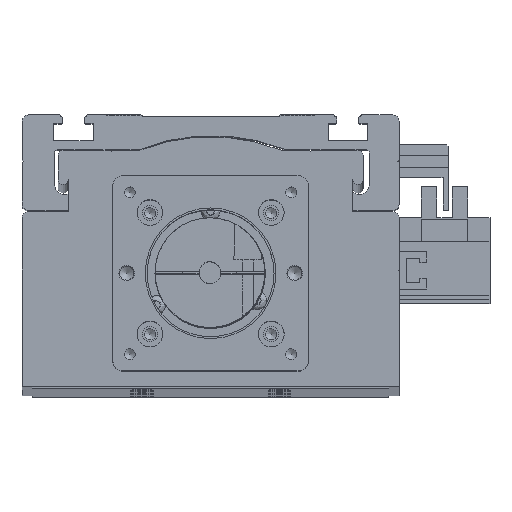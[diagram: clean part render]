
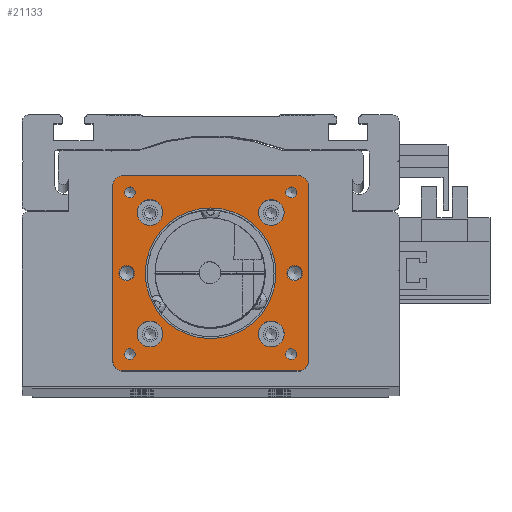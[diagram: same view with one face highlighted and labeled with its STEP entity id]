
A CAD part, top view. The second image highlights one B-rep face of the part: STEP entity #21133.
In plain terms, the highlighted planar face has unit normal (0, 0, 1).
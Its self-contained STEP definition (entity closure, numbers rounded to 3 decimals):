
#20897=CARTESIAN_POINT('',(54.0,57.0,0.0));
#20898=VERTEX_POINT('',#20897);
#20905=CARTESIAN_POINT('',(57.0,54.0,0.0));
#20906=VERTEX_POINT('',#20905);
#20907=CARTESIAN_POINT('',(54.0,54.0,0.0));
#20908=DIRECTION('',(0.0,0.0,-1.));
#20909=DIRECTION('',(0.707,0.707,0.0));
#20910=AXIS2_PLACEMENT_3D('',#20907,#20908,#20909);
#20911=CIRCLE('',#20910,3.);
#20912=EDGE_CURVE('',#20898,#20906,#20911,.T.);
#20929=CARTESIAN_POINT('',(57.0,3.,0.0));
#20930=VERTEX_POINT('',#20929);
#20931=CARTESIAN_POINT('',(57.0,3.,0.0));
#20932=DIRECTION('',(0.0,1.0,0.0));
#20933=VECTOR('',#20932,51.0);
#20934=LINE('',#20931,#20933);
#20935=EDGE_CURVE('',#20930,#20906,#20934,.T.);
#20954=CARTESIAN_POINT('',(28.5,28.5,0.0));
#20955=DIRECTION('',(0.0,0.0,1.0));
#20956=DIRECTION('',(1.0,0.0,0.0));
#20957=AXIS2_PLACEMENT_3D('',#20954,#20955,#20956);
#20958=PLANE('',#20957);
#20959=ORIENTED_EDGE('',*,*,#20912,.F.);
#20960=CARTESIAN_POINT('',(3.,57.0,0.0));
#20961=VERTEX_POINT('',#20960);
#20962=CARTESIAN_POINT('',(54.0,57.0,0.0));
#20963=DIRECTION('',(-1.0,0.0,0.0));
#20964=VECTOR('',#20963,51.0);
#20965=LINE('',#20962,#20964);
#20966=EDGE_CURVE('',#20898,#20961,#20965,.T.);
#20967=ORIENTED_EDGE('',*,*,#20966,.T.);
#20968=CARTESIAN_POINT('',(0.0,54.0,0.0));
#20969=VERTEX_POINT('',#20968);
#20970=CARTESIAN_POINT('',(3.,54.0,0.0));
#20971=DIRECTION('',(0.0,0.0,-1.0));
#20972=DIRECTION('',(-0.707,0.707,0.0));
#20973=AXIS2_PLACEMENT_3D('',#20970,#20971,#20972);
#20974=CIRCLE('',#20973,3.0);
#20975=EDGE_CURVE('',#20969,#20961,#20974,.T.);
#20976=ORIENTED_EDGE('',*,*,#20975,.F.);
#20977=CARTESIAN_POINT('',(0.0,3.,0.0));
#20978=VERTEX_POINT('',#20977);
#20979=CARTESIAN_POINT('',(0.0,54.0,0.0));
#20980=DIRECTION('',(0.0,-1.0,0.0));
#20981=VECTOR('',#20980,51.0);
#20982=LINE('',#20979,#20981);
#20983=EDGE_CURVE('',#20969,#20978,#20982,.T.);
#20984=ORIENTED_EDGE('',*,*,#20983,.T.);
#20985=CARTESIAN_POINT('',(3.,0.0,0.0));
#20986=VERTEX_POINT('',#20985);
#20987=CARTESIAN_POINT('',(3.,3.,0.0));
#20988=DIRECTION('',(0.0,0.0,-1.));
#20989=DIRECTION('',(-0.707,-0.707,0.0));
#20990=AXIS2_PLACEMENT_3D('',#20987,#20988,#20989);
#20991=CIRCLE('',#20990,3.);
#20992=EDGE_CURVE('',#20986,#20978,#20991,.T.);
#20993=ORIENTED_EDGE('',*,*,#20992,.F.);
#20994=CARTESIAN_POINT('',(54.0,0.0,0.0));
#20995=VERTEX_POINT('',#20994);
#20996=CARTESIAN_POINT('',(3.,0.0,0.0));
#20997=DIRECTION('',(1.0,0.0,0.0));
#20998=VECTOR('',#20997,51.0);
#20999=LINE('',#20996,#20998);
#21000=EDGE_CURVE('',#20986,#20995,#20999,.T.);
#21001=ORIENTED_EDGE('',*,*,#21000,.T.);
#21002=CARTESIAN_POINT('',(54.0,3.,0.0));
#21003=DIRECTION('',(0.0,0.0,-1.));
#21004=DIRECTION('',(0.707,-0.707,0.0));
#21005=AXIS2_PLACEMENT_3D('',#21002,#21003,#21004);
#21006=CIRCLE('',#21005,3.);
#21007=EDGE_CURVE('',#20930,#20995,#21006,.T.);
#21008=ORIENTED_EDGE('',*,*,#21007,.F.);
#21009=ORIENTED_EDGE('',*,*,#20935,.T.);
#21010=EDGE_LOOP('',(#20959,#20967,#20976,#20984,#20993,#21001,#21008,#21009));
#21011=FACE_OUTER_BOUND('',#21010,.T.);
#21012=CARTESIAN_POINT('',(6.25,28.5,0.0));
#21013=VERTEX_POINT('',#21012);
#21014=CARTESIAN_POINT('',(4.,28.5,0.0));
#21015=DIRECTION('',(0.0,0.0,-1.0));
#21016=DIRECTION('',(1.0,0.0,0.0));
#21017=AXIS2_PLACEMENT_3D('',#21014,#21015,#21016);
#21018=CIRCLE('',#21017,2.25);
#21019=EDGE_CURVE('',#21013,#21013,#21018,.T.);
#21020=ORIENTED_EDGE('',*,*,#21019,.T.);
#21021=EDGE_LOOP('',(#21020));
#21022=FACE_BOUND('',#21021,.T.);
#21023=CARTESIAN_POINT('',(55.25,28.5,0.0));
#21024=VERTEX_POINT('',#21023);
#21025=CARTESIAN_POINT('',(53.,28.5,0.0));
#21026=DIRECTION('',(0.0,0.0,-1.0));
#21027=DIRECTION('',(1.0,0.0,0.0));
#21028=AXIS2_PLACEMENT_3D('',#21025,#21026,#21027);
#21029=CIRCLE('',#21028,2.25);
#21030=EDGE_CURVE('',#21024,#21024,#21029,.T.);
#21031=ORIENTED_EDGE('',*,*,#21030,.T.);
#21032=EDGE_LOOP('',(#21031));
#21033=FACE_BOUND('',#21032,.T.);
#21034=CARTESIAN_POINT('',(6.546,4.925,0.0));
#21035=VERTEX_POINT('',#21034);
#21036=CARTESIAN_POINT('',(4.925,4.925,0.0));
#21037=DIRECTION('',(0.0,0.0,-1.0));
#21038=DIRECTION('',(1.0,0.0,0.0));
#21039=AXIS2_PLACEMENT_3D('',#21036,#21037,#21038);
#21040=CIRCLE('',#21039,1.621);
#21041=EDGE_CURVE('',#21035,#21035,#21040,.T.);
#21042=ORIENTED_EDGE('',*,*,#21041,.T.);
#21043=EDGE_LOOP('',(#21042));
#21044=FACE_BOUND('',#21043,.T.);
#21045=CARTESIAN_POINT('',(53.696,52.075,0.0));
#21046=VERTEX_POINT('',#21045);
#21047=CARTESIAN_POINT('',(52.075,52.075,0.0));
#21048=DIRECTION('',(0.0,0.0,-1.0));
#21049=DIRECTION('',(1.0,0.0,0.0));
#21050=AXIS2_PLACEMENT_3D('',#21047,#21048,#21049);
#21051=CIRCLE('',#21050,1.621);
#21052=EDGE_CURVE('',#21046,#21046,#21051,.T.);
#21053=ORIENTED_EDGE('',*,*,#21052,.T.);
#21054=EDGE_LOOP('',(#21053));
#21055=FACE_BOUND('',#21054,.T.);
#21056=CARTESIAN_POINT('',(6.546,52.075,0.0));
#21057=VERTEX_POINT('',#21056);
#21058=CARTESIAN_POINT('',(4.925,52.075,0.0));
#21059=DIRECTION('',(0.0,0.0,-1.0));
#21060=DIRECTION('',(1.0,0.0,0.0));
#21061=AXIS2_PLACEMENT_3D('',#21058,#21059,#21060);
#21062=CIRCLE('',#21061,1.621);
#21063=EDGE_CURVE('',#21057,#21057,#21062,.T.);
#21064=ORIENTED_EDGE('',*,*,#21063,.T.);
#21065=EDGE_LOOP('',(#21064));
#21066=FACE_BOUND('',#21065,.T.);
#21067=CARTESIAN_POINT('',(53.696,4.925,0.0));
#21068=VERTEX_POINT('',#21067);
#21069=CARTESIAN_POINT('',(52.075,4.925,0.0));
#21070=DIRECTION('',(0.0,0.0,-1.0));
#21071=DIRECTION('',(1.0,0.0,0.0));
#21072=AXIS2_PLACEMENT_3D('',#21069,#21070,#21071);
#21073=CIRCLE('',#21072,1.621);
#21074=EDGE_CURVE('',#21068,#21068,#21073,.T.);
#21075=ORIENTED_EDGE('',*,*,#21074,.T.);
#21076=EDGE_LOOP('',(#21075));
#21077=FACE_BOUND('',#21076,.T.);
#21078=CARTESIAN_POINT('',(49.95,10.8,0.0));
#21079=VERTEX_POINT('',#21078);
#21080=CARTESIAN_POINT('',(46.2,10.8,0.0));
#21081=DIRECTION('',(0.0,0.0,-1.0));
#21082=DIRECTION('',(1.0,0.0,0.0));
#21083=AXIS2_PLACEMENT_3D('',#21080,#21081,#21082);
#21084=CIRCLE('',#21083,3.75);
#21085=EDGE_CURVE('',#21079,#21079,#21084,.T.);
#21086=ORIENTED_EDGE('',*,*,#21085,.T.);
#21087=EDGE_LOOP('',(#21086));
#21088=FACE_BOUND('',#21087,.T.);
#21089=CARTESIAN_POINT('',(14.55,46.2,0.0));
#21090=VERTEX_POINT('',#21089);
#21091=CARTESIAN_POINT('',(10.8,46.2,0.0));
#21092=DIRECTION('',(0.0,0.0,-1.0));
#21093=DIRECTION('',(1.0,0.0,0.0));
#21094=AXIS2_PLACEMENT_3D('',#21091,#21092,#21093);
#21095=CIRCLE('',#21094,3.75);
#21096=EDGE_CURVE('',#21090,#21090,#21095,.T.);
#21097=ORIENTED_EDGE('',*,*,#21096,.T.);
#21098=EDGE_LOOP('',(#21097));
#21099=FACE_BOUND('',#21098,.T.);
#21100=CARTESIAN_POINT('',(49.95,46.2,0.0));
#21101=VERTEX_POINT('',#21100);
#21102=CARTESIAN_POINT('',(46.2,46.2,0.0));
#21103=DIRECTION('',(0.0,0.0,-1.0));
#21104=DIRECTION('',(1.0,0.0,0.0));
#21105=AXIS2_PLACEMENT_3D('',#21102,#21103,#21104);
#21106=CIRCLE('',#21105,3.75);
#21107=EDGE_CURVE('',#21101,#21101,#21106,.T.);
#21108=ORIENTED_EDGE('',*,*,#21107,.T.);
#21109=EDGE_LOOP('',(#21108));
#21110=FACE_BOUND('',#21109,.T.);
#21111=CARTESIAN_POINT('',(14.55,10.8,0.0));
#21112=VERTEX_POINT('',#21111);
#21113=CARTESIAN_POINT('',(10.8,10.8,0.0));
#21114=DIRECTION('',(0.0,0.0,-1.0));
#21115=DIRECTION('',(1.0,0.0,0.0));
#21116=AXIS2_PLACEMENT_3D('',#21113,#21114,#21115);
#21117=CIRCLE('',#21116,3.75);
#21118=EDGE_CURVE('',#21112,#21112,#21117,.T.);
#21119=ORIENTED_EDGE('',*,*,#21118,.T.);
#21120=EDGE_LOOP('',(#21119));
#21121=FACE_BOUND('',#21120,.T.);
#21122=CARTESIAN_POINT('',(47.55,28.5,0.0));
#21123=VERTEX_POINT('',#21122);
#21124=CARTESIAN_POINT('',(28.5,28.5,0.0));
#21125=DIRECTION('',(0.0,0.0,-1.0));
#21126=DIRECTION('',(-1.0,0.0,0.0));
#21127=AXIS2_PLACEMENT_3D('',#21124,#21125,#21126);
#21128=CIRCLE('',#21127,19.05);
#21129=EDGE_CURVE('',#21123,#21123,#21128,.T.);
#21130=ORIENTED_EDGE('',*,*,#21129,.T.);
#21131=EDGE_LOOP('',(#21130));
#21132=FACE_BOUND('',#21131,.T.);
#21133=ADVANCED_FACE('',(#21011,#21022,#21033,#21044,#21055,#21066,#21077,#21088,#21099,#21110,#21121,#21132),#20958,.T.);
